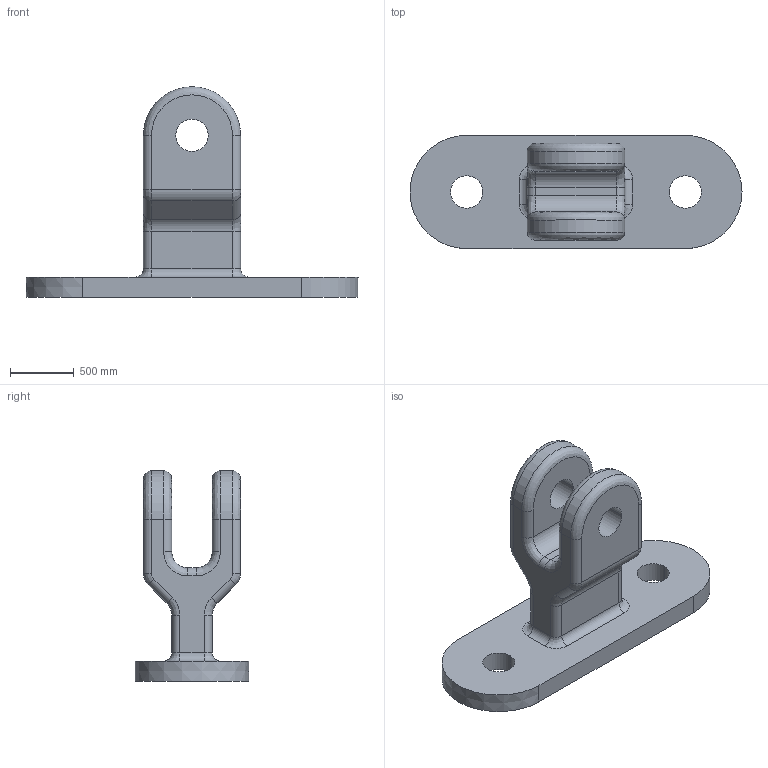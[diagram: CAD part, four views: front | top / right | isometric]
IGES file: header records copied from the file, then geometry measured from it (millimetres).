
Global section: file name: C:\Users\p925447\Documents\Doc\Fitting_for_3D_Meshing_Mehod_One.igs; native system: CT CoreTechnologie 3D Evolution; preprocessor: 2006; date: 1190505.175120; units: millimetre
Bounding box: 2603.51 x 889 x 1651 mm (x, y, z)
Volume: 776127252.2 mm3; surface area: 9873076.9 mm2
Topology: 1 solids, 1 shells, 76 faces, 180 edges, 107 vertices
Faces by surface type: revolution 60, plane 16
